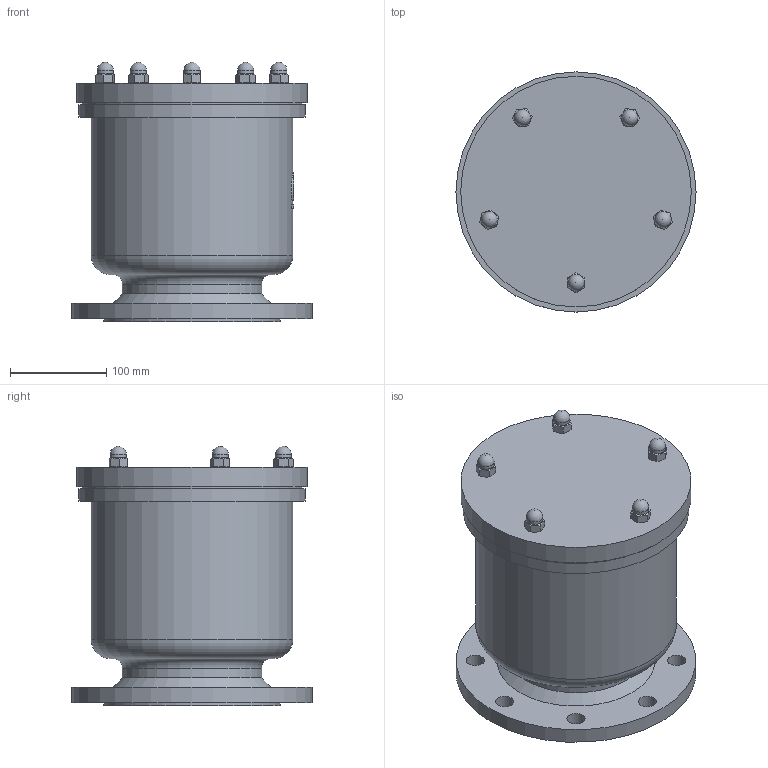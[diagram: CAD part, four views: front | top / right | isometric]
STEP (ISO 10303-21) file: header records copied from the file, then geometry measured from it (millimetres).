
FILE_DESCRIPTION(('STEP AP203'), '1');
FILE_NAME('A10F.Z DN125', '', ('UNSPECIFIED'), ('UNSPECIFIED'), 'ASCON STEP Converter 1.6', 'ASCON Math Kernel', '');
FILE_SCHEMA(('CONFIG_CONTROL_DESIGN'));
Length unit declared in the file: millimetre
Products named in the file (3): A10F.Z DN125
Assembly tree (5 placements, depth 2):
  A10F.Z DN125
    (unnamed)  x3
    (unnamed)  x2
Bounding box: 250 x 250 x 270 mm (x, y, z)
Volume: 5855437.3 mm3; surface area: 411846.4 mm2
Topology: 3 solids, 6 shells, 120 faces, 266 edges, 169 vertices
Faces by surface type: plane 59, cylinder 33, cone 21, sphere 5, torus 2
Full cylindrical faces by diameter (mm): 10.106 x5, 17 x5, 19 x8, 125 x1, 145 x1, 184 x1, 210 x1, 230 x1, 236 x1, 240 x1, 250 x1
Entity records: 6088 total; most frequent: CARTESIAN_POINT 3087, DIRECTION 415, ORIENTED_EDGE 354, AXIS2_PLACEMENT_3D 184, EDGE_LOOP 178, EDGE_CURVE 177, VERTEX_POINT 139, ADVANCED_FACE 105
